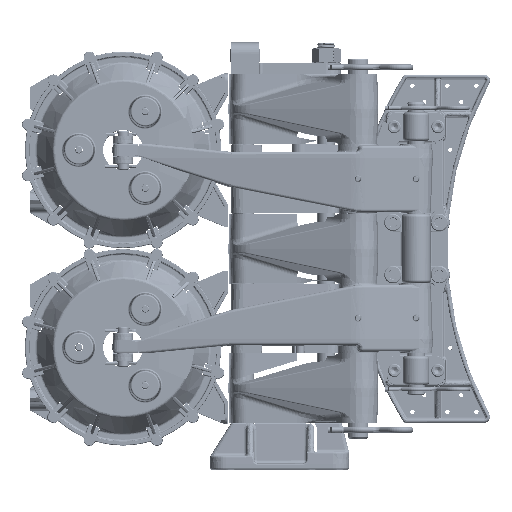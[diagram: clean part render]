
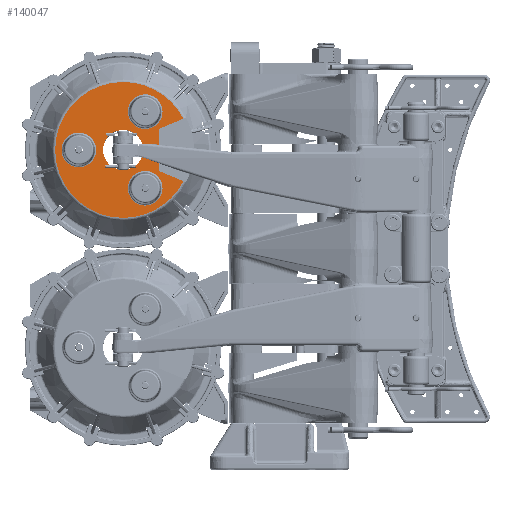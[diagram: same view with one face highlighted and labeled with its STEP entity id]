
A CAD part, top view. The second image highlights one B-rep face of the part: STEP entity #140047.
In plain terms, the highlighted planar face has unit normal (0, 0, 1).
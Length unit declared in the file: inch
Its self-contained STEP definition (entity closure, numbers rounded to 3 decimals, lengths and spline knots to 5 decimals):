
#1630 = DIRECTION ( 'NONE',  ( 0., 0., -1. ) ) ;
#4394 = CARTESIAN_POINT ( 'NONE',  ( -8.9724, 5.15404, 2.775 ) ) ;
#5711 = AXIS2_PLACEMENT_3D ( 'NONE', #202291, #477592, #241823 ) ;
#12750 = DIRECTION ( 'NONE',  ( 0., 1., 0. ) ) ;
#14532 = EDGE_CURVE ( 'NONE', #209172, #59104, #366129, .T. ) ;
#18800 = DIRECTION ( 'NONE',  ( 0., 0., -1. ) ) ;
#24592 = AXIS2_PLACEMENT_3D ( 'NONE', #284442, #48623, #324086 ) ;
#28207 = CIRCLE ( 'NONE', #351902, 2.92827 ) ;
#29124 = CIRCLE ( 'NONE', #397653, 0.74773 ) ;
#33983 = DIRECTION ( 'NONE',  ( 0., -1., 0. ) ) ;
#34743 = AXIS2_PLACEMENT_3D ( 'NONE', #237341, #1630, #276959 ) ;
#35098 = DIRECTION ( 'NONE',  ( 0., -1., 0. ) ) ;
#35948 = DIRECTION ( 'NONE',  ( 0., 0., -1. ) ) ;
#36964 = LINE ( 'NONE', #353197, #234037 ) ;
#37774 = PLANE ( 'NONE',  #170238 ) ;
#39075 = FACE_OUTER_BOUND ( 'NONE', #500621, .T. ) ;
#41144 = EDGE_CURVE ( 'NONE', #89749, #414074, #493784, .T. ) ;
#48623 = DIRECTION ( 'NONE',  ( 0., 0., -1. ) ) ;
#49955 = CARTESIAN_POINT ( 'NONE',  ( -8.9724, 5.90178, 2.775 ) ) ;
#59104 = VERTEX_POINT ( 'NONE', #94497 ) ;
#74054 = EDGE_CURVE ( 'NONE', #425156, #209172, #28207, .T. ) ;
#79308 = ORIENTED_EDGE ( 'NONE', *, *, #332817, .T. ) ;
#83458 = DIRECTION ( 'NONE',  ( 0., 0., 1. ) ) ;
#89466 = DIRECTION ( 'NONE',  ( 0., 1., 0. ) ) ;
#89749 = VERTEX_POINT ( 'NONE', #373438 ) ;
#91593 = CIRCLE ( 'NONE', #356416, 0.74773 ) ;
#94497 = CARTESIAN_POINT ( 'NONE',  ( -7.32433, 2.90598, 2.775 ) ) ;
#99196 = AXIS2_PLACEMENT_3D ( 'NONE', #409407, #173699, #448935 ) ;
#101283 = EDGE_CURVE ( 'NONE', #119213, #300513, #91593, .T. ) ;
#101871 = CIRCLE ( 'NONE', #5711, 0.86273 ) ;
#108111 = EDGE_CURVE ( 'NONE', #300513, #119213, #166858, .T. ) ;
#109892 = CIRCLE ( 'NONE', #268747, 0.74773 ) ;
#113477 = EDGE_CURVE ( 'NONE', #59104, #173499, #232173, .T. ) ;
#113798 = VECTOR ( 'NONE', #35098, 39.37008 ) ;
#114619 = ORIENTED_EDGE ( 'NONE', *, *, #113477, .T. ) ;
#118935 = VERTEX_POINT ( 'NONE', #359500 ) ;
#119213 = VERTEX_POINT ( 'NONE', #4394 ) ;
#123296 = ORIENTED_EDGE ( 'NONE', *, *, #101283, .T. ) ;
#126719 = EDGE_CURVE ( 'NONE', #214157, #425156, #340342, .T. ) ;
#127033 = CARTESIAN_POINT ( 'NONE',  ( -11.8299, 4.99973, 2.775 ) ) ;
#130046 = DIRECTION ( 'NONE',  ( 0., 0., 1. ) ) ;
#140047 = ADVANCED_FACE ( 'NONE', ( #353202, #260948, #143743, #470287, #39075 ), #37774, .F. ) ;
#141541 = CARTESIAN_POINT ( 'NONE',  ( -8.9724, 6.64951, 2.775 ) ) ;
#142667 = CARTESIAN_POINT ( 'NONE',  ( -8.3649, 3.337, 2.775 ) ) ;
#143743 = FACE_BOUND ( 'NONE', #199721, .T. ) ;
#162474 = ORIENTED_EDGE ( 'NONE', *, *, #451064, .T. ) ;
#166858 = CIRCLE ( 'NONE', #99196, 0.74773 ) ;
#170238 = AXIS2_PLACEMENT_3D ( 'NONE', #235709, #510975, #275347 ) ;
#173499 = VERTEX_POINT ( 'NONE', #142667 ) ;
#173699 = DIRECTION ( 'NONE',  ( 0., 0., -1. ) ) ;
#175267 = EDGE_CURVE ( 'NONE', #361246, #482125, #101871, .T. ) ;
#176411 = EDGE_LOOP ( 'NONE', ( #355583, #372666 ) ) ;
#183667 = ORIENTED_EDGE ( 'NONE', *, *, #74054, .T. ) ;
#192334 = CARTESIAN_POINT ( 'NONE',  ( -8.9724, 3.34996, 2.775 ) ) ;
#199721 = EDGE_LOOP ( 'NONE', ( #233919, #123296 ) ) ;
#202291 = CARTESIAN_POINT ( 'NONE',  ( -9.9249, 4.252, 2.775 ) ) ;
#209172 = VERTEX_POINT ( 'NONE', #371573 ) ;
#214157 = VERTEX_POINT ( 'NONE', #326228 ) ;
#218724 = LINE ( 'NONE', #310570, #113798 ) ;
#222940 = CARTESIAN_POINT ( 'NONE',  ( -6.42336, 2.53279, 2.775 ) ) ;
#229016 = VERTEX_POINT ( 'NONE', #127033 ) ;
#232173 = LINE ( 'NONE', #222940, #336939 ) ;
#233919 = ORIENTED_EDGE ( 'NONE', *, *, #108111, .T. ) ;
#234037 = VECTOR ( 'NONE', #354920, 39.37008 ) ;
#235709 = CARTESIAN_POINT ( 'NONE',  ( -6.99663, 4.252, 2.775 ) ) ;
#237341 = CARTESIAN_POINT ( 'NONE',  ( -8.9724, 2.60222, 2.775 ) ) ;
#241823 = DIRECTION ( 'NONE',  ( 0., 1., 0. ) ) ;
#243565 = AXIS2_PLACEMENT_3D ( 'NONE', #319386, #83458, #358863 ) ;
#248435 = DIRECTION ( 'NONE',  ( 0., 0., -1. ) ) ;
#254513 = CARTESIAN_POINT ( 'NONE',  ( -8.9724, 2.60222, 2.775 ) ) ;
#260948 = FACE_BOUND ( 'NONE', #458776, .T. ) ;
#268747 = AXIS2_PLACEMENT_3D ( 'NONE', #484231, #248435, #12750 ) ;
#269867 = DIRECTION ( 'NONE',  ( 0., 0., 1. ) ) ;
#271828 = CARTESIAN_POINT ( 'NONE',  ( -11.8299, 4.252, 2.775 ) ) ;
#272570 = EDGE_CURVE ( 'NONE', #317520, #214157, #36964, .T. ) ;
#275347 = DIRECTION ( 'NONE',  ( 0., 1., 0. ) ) ;
#276941 = CIRCLE ( 'NONE', #24592, 0.86273 ) ;
#276959 = DIRECTION ( 'NONE',  ( 0., 1., 0. ) ) ;
#284442 = CARTESIAN_POINT ( 'NONE',  ( -9.9249, 4.252, 2.775 ) ) ;
#290030 = ORIENTED_EDGE ( 'NONE', *, *, #175267, .T. ) ;
#290959 = CARTESIAN_POINT ( 'NONE',  ( -9.9249, 5.11473, 2.775 ) ) ;
#294104 = DIRECTION ( 'NONE',  ( 0., 1., 0. ) ) ;
#300513 = VERTEX_POINT ( 'NONE', #141541 ) ;
#301989 = CARTESIAN_POINT ( 'NONE',  ( -9.9249, 3.38927, 2.775 ) ) ;
#304202 = CIRCLE ( 'NONE', #493794, 0.74773 ) ;
#306486 = ORIENTED_EDGE ( 'NONE', *, *, #14532, .T. ) ;
#307875 = CARTESIAN_POINT ( 'NONE',  ( -9.9249, 7.18027, 2.775 ) ) ;
#310570 = CARTESIAN_POINT ( 'NONE',  ( -8.3649, 7.04097, 2.775 ) ) ;
#311452 = DIRECTION ( 'NONE',  ( 0., 1., 0. ) ) ;
#317520 = VERTEX_POINT ( 'NONE', #409238 ) ;
#319386 = CARTESIAN_POINT ( 'NONE',  ( -9.9249, 4.252, 2.775 ) ) ;
#324086 = DIRECTION ( 'NONE',  ( 0., 1., 0. ) ) ;
#325433 = DIRECTION ( 'NONE',  ( 0., 0., -1. ) ) ;
#326228 = CARTESIAN_POINT ( 'NONE',  ( -7.32433, 5.59802, 2.775 ) ) ;
#326941 = AXIS2_PLACEMENT_3D ( 'NONE', #505456, #269867, #33983 ) ;
#332817 = EDGE_CURVE ( 'NONE', #118935, #229016, #29124, .T. ) ;
#336939 = VECTOR ( 'NONE', #343249, 39.37008 ) ;
#340342 = CIRCLE ( 'NONE', #326941, 2.92827 ) ;
#343249 = DIRECTION ( 'NONE',  ( -0.924, 0.383, 0. ) ) ;
#351902 = AXIS2_PLACEMENT_3D ( 'NONE', #366032, #130046, #405505 ) ;
#353197 = CARTESIAN_POINT ( 'NONE',  ( -6.42336, 5.97121, 2.775 ) ) ;
#353202 = FACE_BOUND ( 'NONE', #435370, .T. ) ;
#354920 = DIRECTION ( 'NONE',  ( 0.924, 0.383, 0. ) ) ;
#355583 = ORIENTED_EDGE ( 'NONE', *, *, #416039, .T. ) ;
#356416 = AXIS2_PLACEMENT_3D ( 'NONE', #49955, #325433, #89466 ) ;
#358863 = DIRECTION ( 'NONE',  ( 0., -1., 0. ) ) ;
#359500 = CARTESIAN_POINT ( 'NONE',  ( -11.8299, 3.50427, 2.775 ) ) ;
#361246 = VERTEX_POINT ( 'NONE', #301989 ) ;
#366032 = CARTESIAN_POINT ( 'NONE',  ( -9.9249, 4.252, 2.775 ) ) ;
#366129 = CIRCLE ( 'NONE', #243565, 2.92827 ) ;
#371573 = CARTESIAN_POINT ( 'NONE',  ( -9.9249, 1.32373, 2.775 ) ) ;
#372666 = ORIENTED_EDGE ( 'NONE', *, *, #41144, .T. ) ;
#373438 = CARTESIAN_POINT ( 'NONE',  ( -8.9724, 1.85449, 2.775 ) ) ;
#397653 = AXIS2_PLACEMENT_3D ( 'NONE', #271828, #35948, #311452 ) ;
#405505 = DIRECTION ( 'NONE',  ( 0., -1., 0. ) ) ;
#409238 = CARTESIAN_POINT ( 'NONE',  ( -8.3649, 5.167, 2.775 ) ) ;
#409407 = CARTESIAN_POINT ( 'NONE',  ( -8.9724, 5.90178, 2.775 ) ) ;
#414074 = VERTEX_POINT ( 'NONE', #192334 ) ;
#416039 = EDGE_CURVE ( 'NONE', #414074, #89749, #304202, .T. ) ;
#425156 = VERTEX_POINT ( 'NONE', #307875 ) ;
#435370 = EDGE_LOOP ( 'NONE', ( #162474, #290030 ) ) ;
#448935 = DIRECTION ( 'NONE',  ( 0., 1., 0. ) ) ;
#451064 = EDGE_CURVE ( 'NONE', #482125, #361246, #276941, .T. ) ;
#452835 = ORIENTED_EDGE ( 'NONE', *, *, #464413, .T. ) ;
#456297 = ORIENTED_EDGE ( 'NONE', *, *, #498796, .F. ) ;
#458776 = EDGE_LOOP ( 'NONE', ( #452835, #79308 ) ) ;
#464413 = EDGE_CURVE ( 'NONE', #229016, #118935, #109892, .T. ) ;
#470287 = FACE_BOUND ( 'NONE', #176411, .T. ) ;
#476560 = ORIENTED_EDGE ( 'NONE', *, *, #126719, .T. ) ;
#477592 = DIRECTION ( 'NONE',  ( 0., 0., -1. ) ) ;
#478362 = ORIENTED_EDGE ( 'NONE', *, *, #272570, .T. ) ;
#482125 = VERTEX_POINT ( 'NONE', #290959 ) ;
#484231 = CARTESIAN_POINT ( 'NONE',  ( -11.8299, 4.252, 2.775 ) ) ;
#493784 = CIRCLE ( 'NONE', #34743, 0.74773 ) ;
#493794 = AXIS2_PLACEMENT_3D ( 'NONE', #254513, #18800, #294104 ) ;
#498796 = EDGE_CURVE ( 'NONE', #317520, #173499, #218724, .T. ) ;
#500621 = EDGE_LOOP ( 'NONE', ( #478362, #476560, #183667, #306486, #114619, #456297 ) ) ;
#505456 = CARTESIAN_POINT ( 'NONE',  ( -9.9249, 4.252, 2.775 ) ) ;
#510975 = DIRECTION ( 'NONE',  ( 0., 0., -1. ) ) ;
